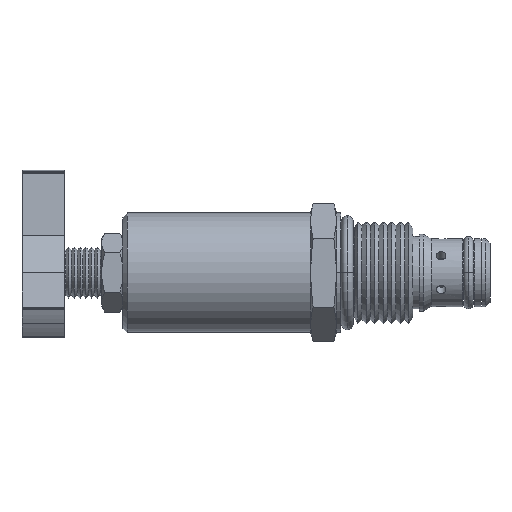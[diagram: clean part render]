
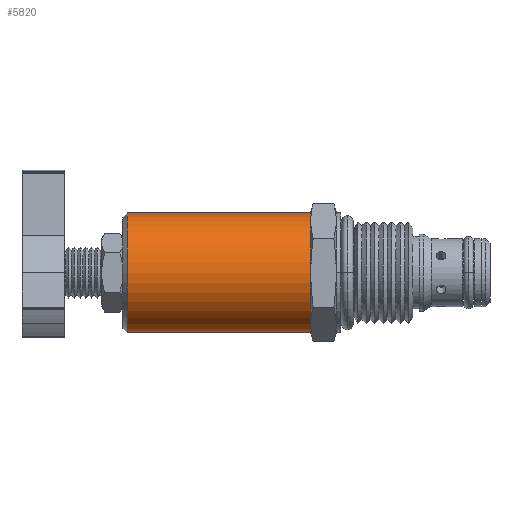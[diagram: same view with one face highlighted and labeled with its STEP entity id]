
A CAD part, top view. The second image highlights one B-rep face of the part: STEP entity #5820.
In plain terms, the highlighted cylindrical face has radius 11.113 mm (diameter 22.225 mm), a partial arc.
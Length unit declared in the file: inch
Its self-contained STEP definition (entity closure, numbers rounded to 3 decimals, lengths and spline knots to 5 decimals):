
#1782=CARTESIAN_POINT('',(-1.564,0.4375,0.));
#1783=VERTEX_POINT('',#1782);
#1792=CARTESIAN_POINT('',(-1.564,-0.4375,0.));
#1793=VERTEX_POINT('',#1792);
#1824=CARTESIAN_POINT('',(-0.219,0.4375,0.));
#1825=VERTEX_POINT('',#1824);
#1826=CARTESIAN_POINT('',(-0.219,0.4375,0.));
#1827=DIRECTION('',(-1.0,0.0,0.0));
#1828=VECTOR('',#1827,1.345);
#1829=LINE('',#1826,#1828);
#1830=EDGE_CURVE('',#1825,#1783,#1829,.T.);
#1859=CARTESIAN_POINT('',(-0.219,-0.4375,0.));
#1860=VERTEX_POINT('',#1859);
#1868=CARTESIAN_POINT('',(-1.564,-0.4375,0.));
#1869=DIRECTION('',(1.0,0.0,0.0));
#1870=VECTOR('',#1869,1.345);
#1871=LINE('',#1868,#1870);
#1872=EDGE_CURVE('',#1793,#1860,#1871,.T.);
#5204=CARTESIAN_POINT('',(-0.219,0.37889,0.21875));
#5205=VERTEX_POINT('',#5204);
#5277=CARTESIAN_POINT('',(-0.219,0.0,0.4375));
#5278=VERTEX_POINT('',#5277);
#5578=CARTESIAN_POINT('',(-0.219,-0.37889,0.21875));
#5579=VERTEX_POINT('',#5578);
#5638=CARTESIAN_POINT('',(-0.219,0.0,0.));
#5639=DIRECTION('',(-1.0,0.0,0.0));
#5640=DIRECTION('',(0.0,1.0,0.0));
#5641=AXIS2_PLACEMENT_3D('',#5638,#5639,#5640);
#5642=CIRCLE('',#5641,0.4375);
#5643=EDGE_CURVE('',#1860,#5579,#5642,.T.);
#5657=CARTESIAN_POINT('',(-0.219,0.0,0.));
#5658=DIRECTION('',(-1.0,0.0,0.0));
#5659=DIRECTION('',(0.0,1.0,0.0));
#5660=AXIS2_PLACEMENT_3D('',#5657,#5658,#5659);
#5661=CIRCLE('',#5660,0.4375);
#5662=EDGE_CURVE('',#5579,#5278,#5661,.T.);
#5674=CARTESIAN_POINT('',(-0.219,0.0,0.));
#5675=DIRECTION('',(-1.0,0.0,0.0));
#5676=DIRECTION('',(0.0,1.0,0.0));
#5677=AXIS2_PLACEMENT_3D('',#5674,#5675,#5676);
#5678=CIRCLE('',#5677,0.4375);
#5679=EDGE_CURVE('',#5278,#5205,#5678,.T.);
#5692=CARTESIAN_POINT('',(-0.219,0.0,0.));
#5693=DIRECTION('',(-1.0,0.0,0.0));
#5694=DIRECTION('',(0.0,1.0,0.0));
#5695=AXIS2_PLACEMENT_3D('',#5692,#5693,#5694);
#5696=CIRCLE('',#5695,0.4375);
#5697=EDGE_CURVE('',#5205,#1825,#5696,.T.);
#5800=CARTESIAN_POINT('',(-0.8915,0.0,0.));
#5801=DIRECTION('',(-1.0,0.0,0.));
#5802=DIRECTION('',(0.0,1.0,0.0));
#5803=AXIS2_PLACEMENT_3D('',#5800,#5801,#5802);
#5804=CYLINDRICAL_SURFACE('',#5803,0.4375);
#5805=ORIENTED_EDGE('',*,*,#1830,.T.);
#5806=CARTESIAN_POINT('',(-1.564,0.0,0.));
#5807=DIRECTION('',(-1.0,0.0,0.0));
#5808=DIRECTION('',(0.0,1.0,0.0));
#5809=AXIS2_PLACEMENT_3D('',#5806,#5807,#5808);
#5810=CIRCLE('',#5809,0.4375);
#5811=EDGE_CURVE('',#1793,#1783,#5810,.T.);
#5812=ORIENTED_EDGE('',*,*,#5811,.F.);
#5813=ORIENTED_EDGE('',*,*,#1872,.T.);
#5814=ORIENTED_EDGE('',*,*,#5643,.T.);
#5815=ORIENTED_EDGE('',*,*,#5662,.T.);
#5816=ORIENTED_EDGE('',*,*,#5679,.T.);
#5817=ORIENTED_EDGE('',*,*,#5697,.T.);
#5818=EDGE_LOOP('',(#5805,#5812,#5813,#5814,#5815,#5816,#5817));
#5819=FACE_OUTER_BOUND('',#5818,.T.);
#5820=ADVANCED_FACE('',(#5819),#5804,.T.);
